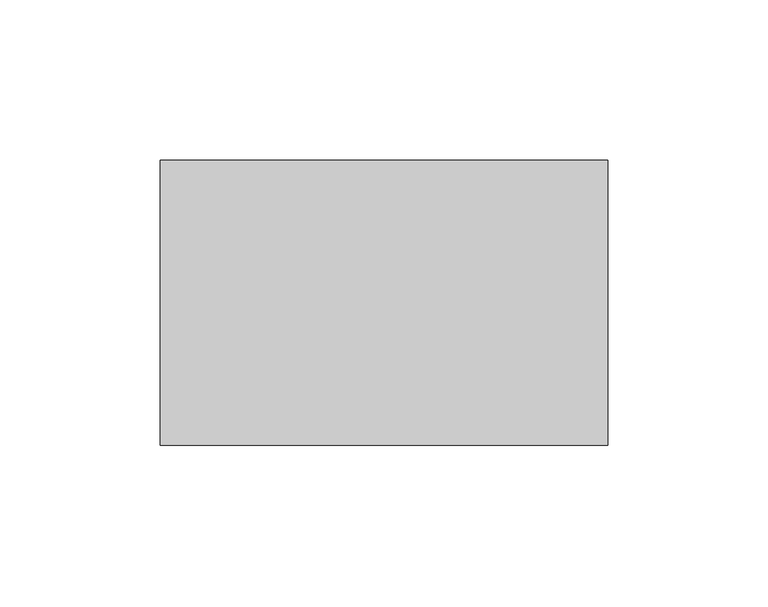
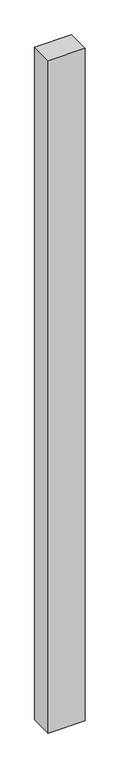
"""IFC4 building model written with IfcOpenShell, lengths in millimetres: column geometry, Trus Joist - TimberStrand LSL - Post Column : TimberStrand® 1.3E – 3 1/2 x 5 1/2”."""

import ifcopenshell
import ifcopenshell.guid

model = None  # the IFC model being written
_history = None  # IfcOwnerHistory: only IFC2X3 demands one
_inside = {}  # id of a spatial element -> (the spatial element, [elements in it])
_under = {}  # id of a project, library or spatial element -> (it, [spatial elements below it])
_declared = {}  # id of a project -> (the project, [libraries it declares])
_typed = {}  # id of a type object -> (the type object, [elements of that type])
_made_of = {}  # id of a material, layer set ... -> (it, [elements and type objects made of it])


def new_model(schema):
    """Start an empty IFC model of exactly this schema.

    Asked for "IFC4X3", IfcOpenShell would pick the latest addendum, in which some entities
    have other attributes; the version numbers below select the first issue.
    IFC2X3 requires an IfcOwnerHistory on every rooted entity: one is made here for all.
    """
    global model, _history
    if schema == "IFC4X3":
        model = ifcopenshell.file(schema_version=(4, 3, 0, 0))
    else:
        model = ifcopenshell.file(schema=schema)
    _inside.clear()
    _under.clear()
    _declared.clear()
    _typed.clear()
    _made_of.clear()
    _history = None
    if model.schema == "IFC2X3":
        org = make("IfcOrganization", Name="unknown")
        user = make(
            "IfcPersonAndOrganization",
            ThePerson=make("IfcPerson", FamilyName="unknown"),
            TheOrganization=org,
        )
        app = make(
            "IfcApplication",
            ApplicationDeveloper=org,
            Version="unknown",
            ApplicationFullName="unknown",
            ApplicationIdentifier="unknown",
        )
        _history = make(
            "IfcOwnerHistory",
            OwningUser=user,
            OwningApplication=app,
            ChangeAction="ADDED",
            CreationDate=0,
        )
    return model


def make(cls, **values):
    """One entity of the class cls with the attributes given. An attribute that is None is left unset."""
    return model.create_entity(
        cls, **{name: value for name, value in values.items() if value is not None}
    )


def rooted(cls, **values):
    """An entity with a GlobalId (a new one), such as an element, a storey or a relation."""
    return make(cls, GlobalId=ifcopenshell.guid.new(), OwnerHistory=_history, **values)


def si_unit(unit_type, name, prefix=None):
    """IfcSIUnit, for example si_unit("LENGTHUNIT", "METRE", prefix="MILLI")."""
    return make("IfcSIUnit", UnitType=unit_type, Prefix=prefix, Name=name)


def assignment(units):
    """IfcUnitAssignment: the units of a project."""
    return None if units is None else make("IfcUnitAssignment", Units=units)


def point(xyz):
    """IfcCartesianPoint."""
    return None if xyz is None else make("IfcCartesianPoint", Coordinates=xyz)


def direction(xyz):
    """IfcDirection."""
    return None if xyz is None else make("IfcDirection", DirectionRatios=xyz)


def frame(location, z_axis=None, x_axis=None):
    """IfcAxis2Placement3D, a coordinate frame: its origin and axes. An axis left out is left unset."""
    return make(
        "IfcAxis2Placement3D",
        Location=point(location),
        Axis=direction(z_axis),
        RefDirection=direction(x_axis),
    )


def origin():
    """The frame at (0, 0, 0) with its axes left unset."""
    return frame((0.0, 0.0, 0.0))


def place(relative_to, where):
    """IfcLocalPlacement: puts the frame where relative to a parent placement (None: the world)."""
    return make(
        "IfcLocalPlacement", PlacementRelTo=relative_to, RelativePlacement=where
    )


def context(
    kind, dimensions, precision=None, world=None, true_north=None, identifier=None
):
    """IfcGeometricRepresentationContext, for example the 3D "Model" context."""
    return make(
        "IfcGeometricRepresentationContext",
        ContextIdentifier=identifier,
        ContextType=kind,
        CoordinateSpaceDimension=dimensions,
        Precision=precision,
        WorldCoordinateSystem=world,
        TrueNorth=true_north,
    )


def project(units=None, contexts=None):
    """IfcProject with its units and contexts."""
    return rooted(
        "IfcProject",
        Name="project",
        RepresentationContexts=contexts,
        UnitsInContext=assignment(units),
    )


def spatial(cls, under=None, at=None, **own):
    """A site, building, storey or space (cls), placed at a placement, below another one or the project."""
    s = rooted(cls, ObjectPlacement=at, **own)
    if under is not None:
        _under.setdefault(under.id(), (under, []))[1].append(s)
    return s


def polyline(points):
    """IfcPolyline through the points."""
    return make("IfcPolyline", Points=[point(p) for p in points])


def outline(outer, holes=None, kind="AREA"):
    """IfcArbitraryClosedProfileDef: a profile drawn as a closed curve; with holes, ...WithVoids."""
    if holes is None:
        return make("IfcArbitraryClosedProfileDef", ProfileType=kind, OuterCurve=outer)
    return make(
        "IfcArbitraryProfileDefWithVoids",
        ProfileType=kind,
        OuterCurve=outer,
        InnerCurves=holes,
    )


def extrude(swept, where, along, depth):
    """IfcExtrudedAreaSolid: the profile swept, set in the frame where, extruded along a direction by depth."""
    return make(
        "IfcExtrudedAreaSolid",
        SweptArea=swept,
        Position=where,
        ExtrudedDirection=direction(along),
        Depth=depth,
    )


def shape(context_of_items, identifier, shape_type, items):
    """IfcShapeRepresentation: the items that make up one representation, for example the "Body"."""
    return make(
        "IfcShapeRepresentation",
        ContextOfItems=context_of_items,
        RepresentationIdentifier=identifier,
        RepresentationType=shape_type,
        Items=items,
    )


def source(mapping_origin, context_of_items, identifier, shape_type, items):
    """IfcRepresentationMap: a shape defined once, which mapped items show again and again."""
    return make(
        "IfcRepresentationMap",
        MappingOrigin=mapping_origin,
        MappedRepresentation=shape(context_of_items, identifier, shape_type, items),
    )


def transform(
    local_origin,
    x_axis=None,
    y_axis=None,
    z_axis=None,
    scale=None,
    scale2=None,
    scale3=None,
    uniform=True,
):
    """IfcCartesianTransformationOperator3D, or its non-uniform kind. x_axis, y_axis, z_axis: its Axis1, 2, 3."""
    if uniform:
        return make(
            "IfcCartesianTransformationOperator3D",
            Axis1=direction(x_axis),
            Axis2=direction(y_axis),
            LocalOrigin=point(local_origin),
            Scale=scale,
            Axis3=direction(z_axis),
        )
    return make(
        "IfcCartesianTransformationOperator3DnonUniform",
        Axis1=direction(x_axis),
        Axis2=direction(y_axis),
        LocalOrigin=point(local_origin),
        Scale=scale,
        Axis3=direction(z_axis),
        Scale2=scale2,
        Scale3=scale3,
    )


def mapped(mapping_source, mapping_target):
    """IfcMappedItem: shows the shape of a source again, moved by a transform."""
    return make(
        "IfcMappedItem", MappingSource=mapping_source, MappingTarget=mapping_target
    )


def made_of(thing, what):
    """Note that an element or type object is made of a material, layer set ...; save() writes the relation."""
    if what is not None:
        _made_of.setdefault(what.id(), (what, []))[1].append(thing)
    return thing


def element(
    cls,
    number,
    at=None,
    inside=None,
    cuts=None,
    type_object=None,
    material=None,
    context=None,
    identifier="Body",
    shape_type=None,
    held_by="IfcProductDefinitionShape",
    body=None,
    shapes=None,
    **own,
):
    """One element of the class cls, such as IfcWall. Its Tag is "e" and its number.

    at: its placement. inside: the storey or other place that contains it. cuts: it is an
    opening in that element (IfcRelVoidsElement). A single representation is given by context,
    identifier, shape_type and body (its items); several are given by shapes. held_by: the class
    of the entity that holds the representations. save() writes the other relations.
    """
    e = rooted(cls, Tag="e%d" % number, ObjectPlacement=at, **own)
    if body is not None:
        shapes = [shape(context, identifier, shape_type, body)]
    if shapes is not None:
        e.Representation = make(held_by, Representations=shapes)
    if inside is not None:
        _inside.setdefault(inside.id(), (inside, []))[1].append(e)
    if cuts is not None:
        rooted(
            "IfcRelVoidsElement", RelatingBuildingElement=cuts, RelatedOpeningElement=e
        )
    if type_object is not None:
        _typed.setdefault(type_object.id(), (type_object, []))[1].append(e)
    return made_of(e, material)


def aggregate(whole, parts):
    """IfcRelAggregates: a whole, such as a stair, and the parts it consists of."""
    return rooted("IfcRelAggregates", RelatingObject=whole, RelatedObjects=parts)


def save(model, path):
    """Write the relations noted so far, then the file.

    IfcRelAggregates (storeys below a building ...), IfcRelContainedInSpatialStructure (elements
    in a storey), IfcRelDefinesByType, IfcRelAssociatesMaterial and IfcRelDeclares: one each for
    every whole, place, type object, material and project.
    """
    for whole, parts in _under.values():
        aggregate(whole, parts)
    for where, things in _inside.values():
        rooted(
            "IfcRelContainedInSpatialStructure",
            RelatedElements=things,
            RelatingStructure=where,
        )
    for kind, things in _typed.values():
        rooted("IfcRelDefinesByType", RelatedObjects=things, RelatingType=kind)
    for what, things in _made_of.values():
        rooted("IfcRelAssociatesMaterial", RelatedObjects=things, RelatingMaterial=what)
    for by, libraries in _declared.values():
        rooted("IfcRelDeclares", RelatingContext=by, RelatedDefinitions=libraries)
    model.write(path)


def column_46512281(model_context):
    return source(origin(), model_context, "Body", "SweptSolid", [
        extrude(outline(polyline([(69.85, 44.45), (69.85, -44.45), (-69.85, -44.45), (-69.85, 44.45), (69.85, 44.45)])), frame((0.0, 0.0, 38.1), z_axis=(0.0, 0.0, 1.0), x_axis=(1.0, 0.0, 0.0)), (0.0, 0.0, 1.0), 2701.925),
    ])


if __name__ == "__main__":
    model = new_model("IFC4")
    model_context = context("Model", 3, world=origin())
    ifc_project = project(units=[si_unit("LENGTHUNIT", "METRE", prefix="MILLI")], contexts=[model_context])
    site = spatial("IfcSite", under=ifc_project)
    building = spatial("IfcBuilding", under=site)
    placement = place(None, origin())
    column_shape = column_46512281(model_context)
    element("IfcColumn", 1, ObjectType="Trus Joist - TimberStrand LSL - Post Column : TimberStrand® 1.3E – 3 1/2 x 5 1/2”", at=placement, inside=building, context=model_context, shape_type="MappedRepresentation", body=[
        mapped(column_shape, transform((0.0, 0.0, 0.0), x_axis=(1.0, 0.0, 0.0), y_axis=(0.0, 1.0, 0.0), z_axis=(0.0, 0.0, 1.0))),
    ])
    save(model, "model.ifc")
